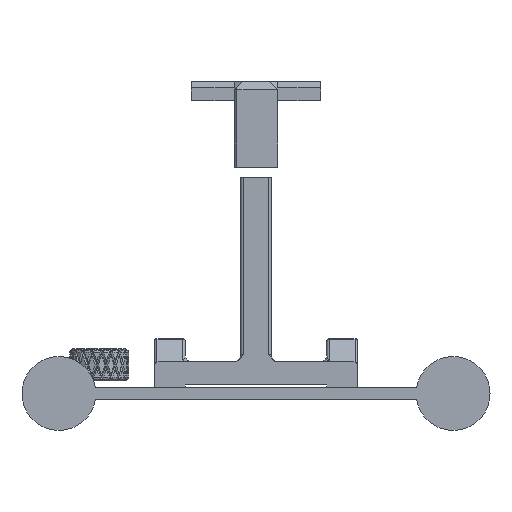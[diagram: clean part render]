
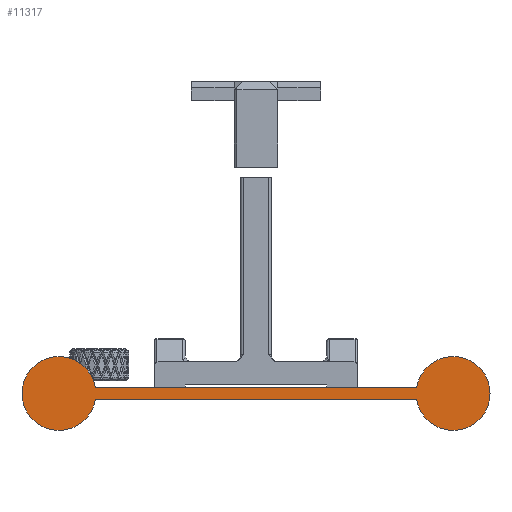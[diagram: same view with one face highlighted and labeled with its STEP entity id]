
A CAD part, left-side view. The second image highlights one B-rep face of the part: STEP entity #11317.
In plain terms, the highlighted planar face has unit normal (-1, 0, 0).
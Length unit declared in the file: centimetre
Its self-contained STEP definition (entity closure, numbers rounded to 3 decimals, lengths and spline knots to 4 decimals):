
#352=CIRCLE($,#12310,1.5);
#361=CIRCLE($,#12321,1.5);
#1181=FACE_OUTER_BOUND($,#1903,.T.);
#1903=EDGE_LOOP($,(#9174,#9175,#9176,#9177));
#3028=LINE($,#19253,#3880);
#3034=LINE($,#19269,#3886);
#3880=VECTOR($,#14604,13.0419);
#3886=VECTOR($,#14616,13.042);
#4938=VERTEX_POINT($,#19234);
#4939=VERTEX_POINT($,#19236);
#4946=VERTEX_POINT($,#19252);
#4953=VERTEX_POINT($,#19268);
#6410=EDGE_CURVE($,#4938,#4939,#352,.T.);
#6417=EDGE_CURVE($,#4938,#4946,#3028,.F.);
#6425=EDGE_CURVE($,#4953,#4939,#3034,.T.);
#6426=EDGE_CURVE($,#4953,#4946,#361,.T.);
#9174=ORIENTED_EDGE($,*,*,#6410,.T.);
#9175=ORIENTED_EDGE($,*,*,#6425,.F.);
#9176=ORIENTED_EDGE($,*,*,#6426,.T.);
#9177=ORIENTED_EDGE($,*,*,#6417,.F.);
#10704=PLANE($,#12320);
#11317=ADVANCED_FACE($,(#1181),#10704,.F.);
#12310=AXIS2_PLACEMENT_3D($,#19238,#14588,#14589);
#12320=AXIS2_PLACEMENT_3D($,#19267,#14614,#14615);
#12321=AXIS2_PLACEMENT_3D($,#19270,#14617,#14618);
#14588=DIRECTION('center_axis',(-1.,0.,0.));
#14589=DIRECTION('ref_axis',(0.,0.,-1.));
#14604=DIRECTION($,(0.,-1.,0.));
#14614=DIRECTION('center_axis',(1.,0.,0.));
#14615=DIRECTION('ref_axis',(0.,0.,-1.));
#14616=DIRECTION($,(0.,-1.,0.));
#14617=DIRECTION('center_axis',(-1.,0.,0.));
#14618=DIRECTION('ref_axis',(0.,0.,-1.));
#19234=CARTESIAN_POINT('',(-8.8646,10.3858,12.8413));
#19236=CARTESIAN_POINT('',(-8.8646,10.3858,13.3413));
#19238=CARTESIAN_POINT('Origin',(-8.8646,8.9068,13.0913));
#19252=CARTESIAN_POINT('',(-8.8646,23.4277,12.8413));
#19253=CARTESIAN_POINT($,(-8.8646,12.8568,12.8413));
#19267=CARTESIAN_POINT('Origin',(-8.8646,8.8068,14.0663));
#19268=CARTESIAN_POINT('',(-8.8646,23.4278,13.3413));
#19269=CARTESIAN_POINT($,(-8.8646,12.8568,13.3413));
#19270=CARTESIAN_POINT('Origin',(-8.8646,24.9068,13.0913));
